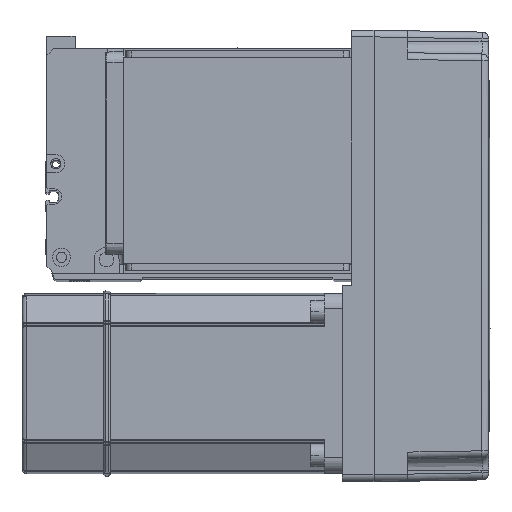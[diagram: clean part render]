
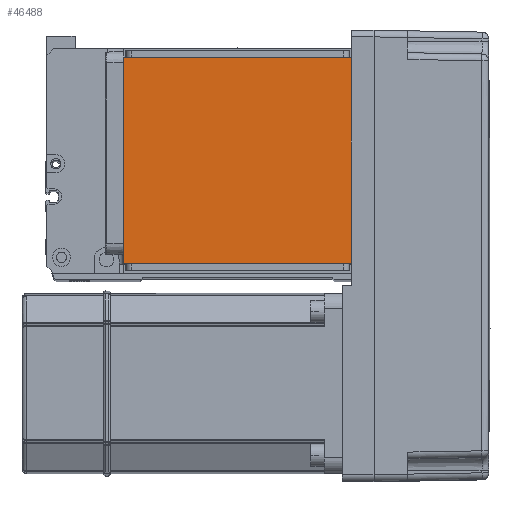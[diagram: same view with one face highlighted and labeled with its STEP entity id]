
A CAD part, top view. The second image highlights one B-rep face of the part: STEP entity #46488.
In plain terms, the highlighted planar face has unit normal (0, 0, 1).
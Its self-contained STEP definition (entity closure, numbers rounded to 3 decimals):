
#2097 = DIRECTION ( 'NONE',  ( 1., 0., 0. ) ) ;
#5759 = AXIS2_PLACEMENT_3D ( 'NONE', #10127, #40157, #14444 ) ;
#8325 = FACE_OUTER_BOUND ( 'NONE', #45260, .T. ) ;
#10127 = CARTESIAN_POINT ( 'NONE',  ( 0., 0., 115. ) ) ;
#12900 = CARTESIAN_POINT ( 'NONE',  ( -50.5, 111.5, 115. ) ) ;
#14444 = DIRECTION ( 'NONE',  ( 1., 0., 0. ) ) ;
#14530 = VERTEX_POINT ( 'NONE', #12900 ) ;
#16978 = CARTESIAN_POINT ( 'NONE',  ( 50.5, 122., 115. ) ) ;
#18572 = VERTEX_POINT ( 'NONE', #33543 ) ;
#19483 = ORIENTED_EDGE ( 'NONE', *, *, #26386, .F. ) ;
#20432 = VECTOR ( 'NONE', #2097, 1000. ) ;
#22181 = CARTESIAN_POINT ( 'NONE',  ( 50.5, 20., 115. ) ) ;
#22937 = PLANE ( 'NONE',  #5759 ) ;
#24368 = CARTESIAN_POINT ( 'NONE',  ( -50.5, 122., 115. ) ) ;
#25041 = VECTOR ( 'NONE', #45576, 1000. ) ;
#26386 = EDGE_CURVE ( 'NONE', #28858, #35556, #44491, .T. ) ;
#28161 = ORIENTED_EDGE ( 'NONE', *, *, #41047, .T. ) ;
#28553 = CARTESIAN_POINT ( 'NONE',  ( -70.004, 111.5, 115. ) ) ;
#28858 = VERTEX_POINT ( 'NONE', #22181 ) ;
#32953 = LINE ( 'NONE', #16978, #48491 ) ;
#33543 = CARTESIAN_POINT ( 'NONE',  ( 50.5, 111.5, 115. ) ) ;
#34200 = DIRECTION ( 'NONE',  ( 0., 1., 0. ) ) ;
#35556 = VERTEX_POINT ( 'NONE', #36903 ) ;
#36487 = LINE ( 'NONE', #28553, #20432 ) ;
#36903 = CARTESIAN_POINT ( 'NONE',  ( -50.5, 20., 115. ) ) ;
#37133 = CARTESIAN_POINT ( 'NONE',  ( -70.004, 20., 115. ) ) ;
#39951 = EDGE_CURVE ( 'NONE', #14530, #18572, #36487, .T. ) ;
#40157 = DIRECTION ( 'NONE',  ( 0., 0., 1. ) ) ;
#41047 = EDGE_CURVE ( 'NONE', #14530, #35556, #41790, .T. ) ;
#41104 = DIRECTION ( 'NONE',  ( -1., 0., 0. ) ) ;
#41790 = LINE ( 'NONE', #24368, #25041 ) ;
#43737 = ORIENTED_EDGE ( 'NONE', *, *, #39951, .F. ) ;
#44491 = LINE ( 'NONE', #37133, #45199 ) ;
#45199 = VECTOR ( 'NONE', #41104, 1000. ) ;
#45260 = EDGE_LOOP ( 'NONE', ( #43737, #28161, #19483, #50168 ) ) ;
#45576 = DIRECTION ( 'NONE',  ( 0., -1., 0. ) ) ;
#46488 = ADVANCED_FACE ( 'NONE', ( #8325 ), #22937, .T. ) ;
#48491 = VECTOR ( 'NONE', #34200, 1000. ) ;
#50168 = ORIENTED_EDGE ( 'NONE', *, *, #53635, .T. ) ;
#53635 = EDGE_CURVE ( 'NONE', #28858, #18572, #32953, .T. ) ;
